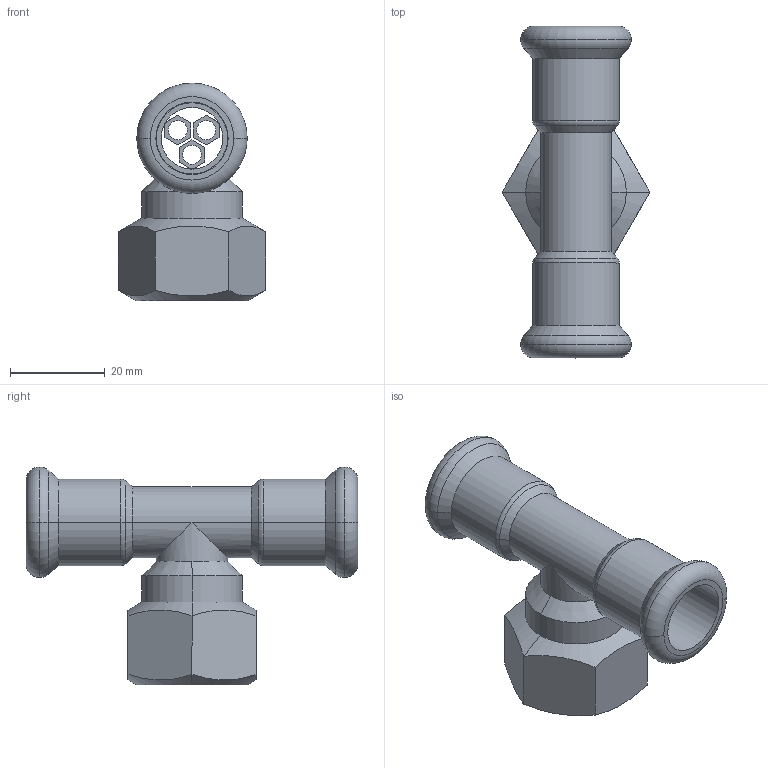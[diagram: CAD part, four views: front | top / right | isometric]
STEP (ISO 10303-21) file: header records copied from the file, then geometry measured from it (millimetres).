
FILE_DESCRIPTION(('OneSpaceDesigner STEP Export'),'2;1');
FILE_NAME('R2718 15xRp1-2x15.stp','2010-06-10T 9:56:55',(''),(''),'OneSpace Designer STEP processor for AP214 (Solid Model)','OneSpace Modeling 15.00A 14-Mar-2007 (C) CoCreate Software GmbH','');
FILE_SCHEMA(('AUTOMOTIVE_DESIGN { 1 0 10303 214 1 1 1 1 }'));
Length unit declared in the file: millimetre
Products named in the file (2): R2718_15xRp1-2x15
Assembly tree (1 placements, depth 2):
  R2718_15xRp1-2x15
    R2718_15xRp1-2x15
Bounding box: 31.18 x 70 x 45.95 mm (x, y, z)
Volume: 12810.4 mm3; surface area: 13036.7 mm2
Topology: 1 solids, 1 shells, 190 faces, 480 edges, 305 vertices
Faces by surface type: plane 93, cylinder 61, cone 24, torus 12
Entity records: 6528 total; most frequent: CARTESIAN_POINT 2287, ORIENTED_EDGE 960, DIRECTION 751, EDGE_CURVE 480, VERTEX_POINT 305, VECTOR 287, LINE 287, AXIS2_PLACEMENT_3D 232
